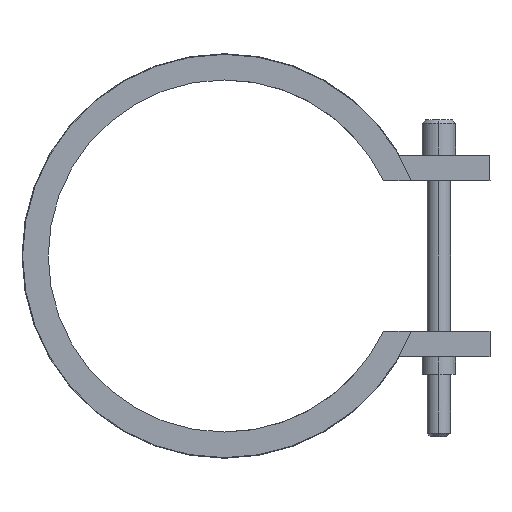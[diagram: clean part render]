
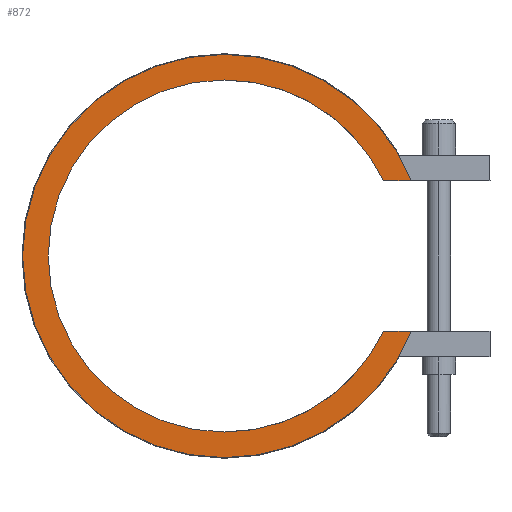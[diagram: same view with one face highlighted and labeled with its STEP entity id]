
A CAD part, left-side view. The second image highlights one B-rep face of the part: STEP entity #872.
In plain terms, the highlighted planar face has unit normal (-1, 0, 0).
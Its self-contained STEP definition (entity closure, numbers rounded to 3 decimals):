
#410=CARTESIAN_POINT('Vertex',(-17.5,-24.863,-11.75)) ;
#413=CARTESIAN_POINT('Line Origine',(-17.5,-27.045,-11.75)) ;
#417=CARTESIAN_POINT('Vertex',(-17.5,-29.226,-11.75)) ;
#463=CARTESIAN_POINT('Vertex',(-17.5,0.,-31.5)) ;
#466=CARTESIAN_POINT('Axis2P3D Location',(-17.5,0.,0.)) ;
#487=CARTESIAN_POINT('Vertex',(-17.5,0.,31.5)) ;
#490=CARTESIAN_POINT('Axis2P3D Location',(-17.5,0.,0.)) ;
#502=CARTESIAN_POINT('Axis2P3D Location',(-17.5,0.,0.)) ;
#506=CARTESIAN_POINT('Vertex',(-17.5,-29.226,11.75)) ;
#526=CARTESIAN_POINT('Line Origine',(-17.5,-27.045,11.75)) ;
#530=CARTESIAN_POINT('Vertex',(-17.5,-24.863,11.75)) ;
#818=CARTESIAN_POINT('Axis2P3D Location',(-17.5,0.,0.)) ;
#822=CARTESIAN_POINT('Vertex',(-17.5,0.,-27.5)) ;
#845=CARTESIAN_POINT('Axis2P3D Location',(-17.5,0.,0.)) ;
#850=CARTESIAN_POINT('Axis2P3D Location',(-17.5,0.,0.)) ;
#854=CARTESIAN_POINT('Vertex',(-17.5,0.,27.5)) ;
#857=CARTESIAN_POINT('Axis2P3D Location',(-17.5,0.,0.)) ;
#414=DIRECTION('Vector Direction',(0.,1.,0.)) ;
#467=DIRECTION('Axis2P3D Direction',(1.,0.,-0.)) ;
#491=DIRECTION('Axis2P3D Direction',(1.,0.,-0.)) ;
#503=DIRECTION('Axis2P3D Direction',(1.,0.,-0.)) ;
#527=DIRECTION('Vector Direction',(0.,-1.,0.)) ;
#819=DIRECTION('Axis2P3D Direction',(1.,0.,-0.)) ;
#846=DIRECTION('Axis2P3D Direction',(1.,0.,0.)) ;
#847=DIRECTION('Axis2P3D XDirection',(0.,0.,-1.)) ;
#851=DIRECTION('Axis2P3D Direction',(1.,0.,0.)) ;
#858=DIRECTION('Axis2P3D Direction',(1.,0.,0.)) ;
#468=AXIS2_PLACEMENT_3D('Circle Axis2P3D',#466,#467,$) ;
#492=AXIS2_PLACEMENT_3D('Circle Axis2P3D',#490,#491,$) ;
#504=AXIS2_PLACEMENT_3D('Circle Axis2P3D',#502,#503,$) ;
#820=AXIS2_PLACEMENT_3D('Circle Axis2P3D',#818,#819,$) ;
#848=AXIS2_PLACEMENT_3D('Plane Axis2P3D',#845,#846,#847) ;
#852=AXIS2_PLACEMENT_3D('Circle Axis2P3D',#850,#851,$) ;
#859=AXIS2_PLACEMENT_3D('Circle Axis2P3D',#857,#858,$) ;
#863=ORIENTED_EDGE('',*,*,#419,.T.) ;
#864=ORIENTED_EDGE('',*,*,#824,.T.) ;
#865=ORIENTED_EDGE('',*,*,#856,.T.) ;
#866=ORIENTED_EDGE('',*,*,#861,.T.) ;
#867=ORIENTED_EDGE('',*,*,#532,.T.) ;
#868=ORIENTED_EDGE('',*,*,#508,.F.) ;
#869=ORIENTED_EDGE('',*,*,#494,.F.) ;
#870=ORIENTED_EDGE('',*,*,#470,.F.) ;
#415=VECTOR('Line Direction',#414,1.) ;
#528=VECTOR('Line Direction',#527,1.) ;
#872=ADVANCED_FACE('14055035',(#871),#849,.F.) ;
#469=CIRCLE('generated circle',#468,31.5) ;
#493=CIRCLE('generated circle',#492,31.5) ;
#505=CIRCLE('generated circle',#504,31.5) ;
#821=CIRCLE('generated circle',#820,27.5) ;
#853=CIRCLE('generated circle',#852,27.5) ;
#860=CIRCLE('generated circle',#859,27.5) ;
#419=EDGE_CURVE('',#418,#411,#416,.T.) ;
#470=EDGE_CURVE('',#418,#464,#469,.T.) ;
#494=EDGE_CURVE('',#464,#488,#493,.T.) ;
#508=EDGE_CURVE('',#488,#507,#505,.T.) ;
#532=EDGE_CURVE('',#531,#507,#529,.T.) ;
#824=EDGE_CURVE('',#411,#823,#821,.T.) ;
#856=EDGE_CURVE('',#823,#855,#853,.T.) ;
#861=EDGE_CURVE('',#855,#531,#860,.T.) ;
#862=EDGE_LOOP('',(#863,#864,#865,#866,#867,#868,#869,#870)) ;
#871=FACE_OUTER_BOUND('',#862,.T.) ;
#416=LINE('Line',#413,#415) ;
#529=LINE('Line',#526,#528) ;
#849=PLANE('Plane',#848) ;
#411=VERTEX_POINT('',#410) ;
#418=VERTEX_POINT('',#417) ;
#464=VERTEX_POINT('',#463) ;
#488=VERTEX_POINT('',#487) ;
#507=VERTEX_POINT('',#506) ;
#531=VERTEX_POINT('',#530) ;
#823=VERTEX_POINT('',#822) ;
#855=VERTEX_POINT('',#854) ;
